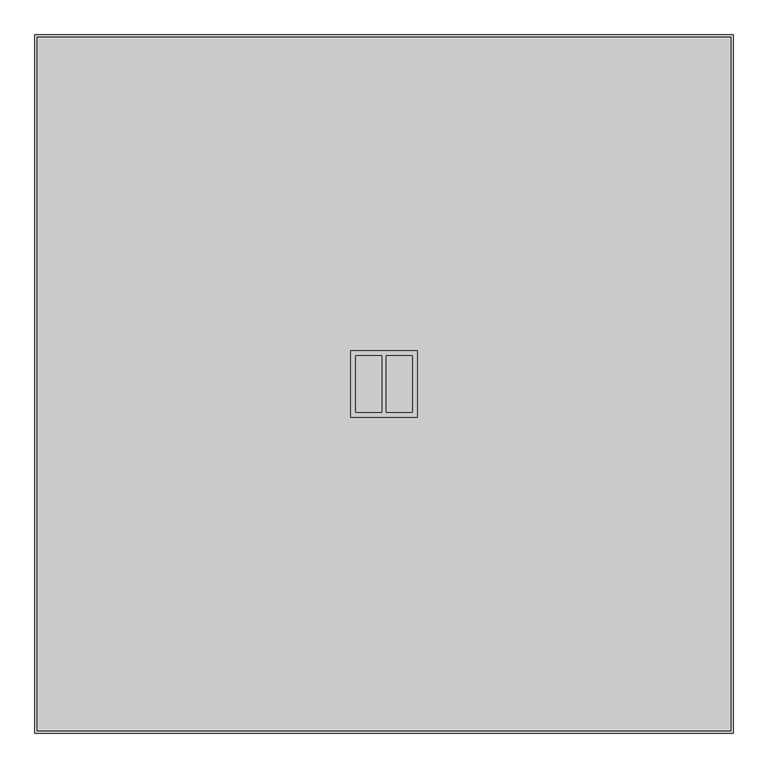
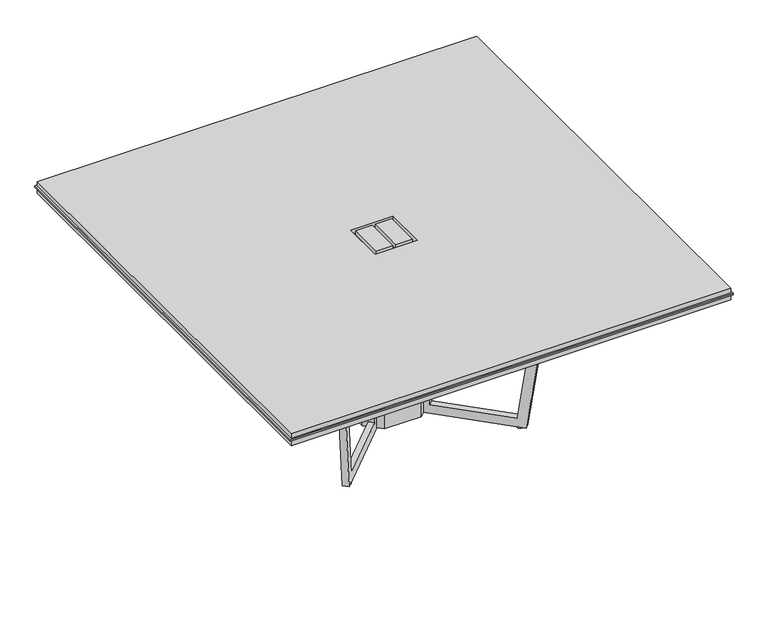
"""IFC4 building model written with IfcOpenShell, lengths in millimetres: furniture geometry, Knoll_Datesweiser_Tables_Meeting_Highline_Square : 72W Caesartone WireMgmt."""

from ifc_helpers import new_model, si_unit, point, frame, frame_2d, origin, origin_with_axes, place, context, project, spatial, polyline, circle_curve, trimmed, segment, composite_curve, outline, extrude, faceted_brep, source, transform, mapped, element, save


def furniture_2de5d6c9(model_context):
    return source(origin(), model_context, "Body", "SolidModel", [
        extrude(outline(polyline([(914.4, 914.4), (914.4, -914.4), (-914.4, -914.4), (-914.4, 914.4), (914.4, 914.4)])), frame((0.0, 0.0, 698.5), z_axis=(0.0, 0.0, 1.0), x_axis=(1.0, 0.0, 0.0)), (0.0, 0.0, 1.0), 25.4),
        extrude(outline(polyline([(914.4, 914.4), (914.4, -914.4), (-914.4, -914.4), (-914.4, 914.4), (914.4, 914.4)]), holes=[polyline([(-87.3125, -87.3125), (87.3125, -87.3125), (87.3125, 87.3125), (-87.3125, 87.3125), (-87.3125, -87.3125)])]), frame((0.0, 0.0, 730.25), z_axis=(0.0, 0.0, 1.0), x_axis=(1.0, 0.0, 0.0)), (0.0, 0.0, 1.0), 19.05),
        extrude(outline(polyline([(6.35, -74.6125), (6.35, 74.6125), (74.6125, 74.6125), (74.6125, -74.6125), (6.35, -74.6125)])), frame((0.0, 0.0, 730.25), z_axis=(0.0, 0.0, 1.0), x_axis=(1.0, 0.0, 0.0)), (0.0, 0.0, 1.0), 19.05),
        extrude(outline(polyline([(-6.35, 74.6125), (-6.35, -74.6125), (-74.6125, -74.6125), (-74.6125, 74.6125), (-6.35, 74.6125)])), frame((0.0, 0.0, 730.25), z_axis=(0.0, 0.0, 1.0), x_axis=(1.0, 0.0, 0.0)), (0.0, 0.0, 1.0), 19.05),
        extrude(outline(polyline([(920.75, 920.75), (920.75, -920.75), (-920.75, -920.75), (-920.75, 920.75), (920.75, 920.75)]), holes=[polyline([(-87.3125, -87.3125), (87.3125, -87.3125), (87.3125, 87.3125), (-87.3125, 87.3125), (-87.3125, -87.3125)])]), frame((0.0, 0.0, 723.9), z_axis=(0.0, 0.0, 1.0), x_axis=(1.0, 0.0, 0.0)), (0.0, 0.0, 1.0), 6.35),
        extrude(outline(polyline([(6.35, -74.6125), (6.35, 74.6125), (74.6125, 74.6125), (74.6125, -74.6125), (6.35, -74.6125)])), frame((0.0, 0.0, 723.9), z_axis=(0.0, 0.0, 1.0), x_axis=(1.0, 0.0, 0.0)), (0.0, 0.0, 1.0), 6.35),
        extrude(outline(polyline([(-6.35, 74.6125), (-6.35, -74.6125), (-74.6125, -74.6125), (-74.6125, 74.6125), (-6.35, 74.6125)])), frame((0.0, 0.0, 723.9), z_axis=(0.0, 0.0, 1.0), x_axis=(1.0, 0.0, 0.0)), (0.0, 0.0, 1.0), 6.35),
        extrude(outline(composite_curve([segment(trimmed(circle_curve(frame_2d((-357.9481367, -357.9481367)), 12.7), [point((-345.2481367, -357.9481367))], [point((-370.6481367, -357.9481367))], False, "CARTESIAN"), True, "CONTINUOUS"), segment(trimmed(circle_curve(frame_2d((-357.9481367, -357.9481367)), 12.7), [point((-370.6481367, -357.9481367))], [point((-345.2481367, -357.9481367))], False, "CARTESIAN"), True, "CONTINUOUS")], self_intersect=False)), origin_with_axes(), (0.0, 0.0, 1.0), 5.9867797),
        extrude(outline(composite_curve([segment(trimmed(circle_curve(frame_2d((-357.9481367, 357.9481367)), 12.7), [point((-345.2481367, 357.9481367))], [point((-370.6481367, 357.9481367))], False, "CARTESIAN"), True, "CONTINUOUS"), segment(trimmed(circle_curve(frame_2d((-357.9481367, 357.9481367)), 12.7), [point((-370.6481367, 357.9481367))], [point((-345.2481367, 357.9481367))], False, "CARTESIAN"), True, "CONTINUOUS")], self_intersect=False)), origin_with_axes(), (0.0, 0.0, 1.0), 5.9867797),
        extrude(outline(composite_curve([segment(trimmed(circle_curve(frame_2d((357.9481367, -357.9481367)), 12.7), [point((370.6481367, -357.9481367))], [point((345.2481367, -357.9481367))], False, "CARTESIAN"), True, "CONTINUOUS"), segment(trimmed(circle_curve(frame_2d((357.9481367, -357.9481367)), 12.7), [point((345.2481367, -357.9481367))], [point((370.6481367, -357.9481367))], False, "CARTESIAN"), True, "CONTINUOUS")], self_intersect=False)), origin_with_axes(), (0.0, 0.0, 1.0), 5.9867797),
        extrude(outline(composite_curve([segment(trimmed(circle_curve(frame_2d((357.9481367, 357.9481367)), 12.7), [point((370.6481367, 357.9481367))], [point((345.2481367, 357.9481367))], False, "CARTESIAN"), True, "CONTINUOUS"), segment(trimmed(circle_curve(frame_2d((357.9481367, 357.9481367)), 12.7), [point((345.2481367, 357.9481367))], [point((370.6481367, 357.9481367))], False, "CARTESIAN"), True, "CONTINUOUS")], self_intersect=False)), origin_with_axes(), (0.0, 0.0, 1.0), 5.9867797),
        faceted_brep([(-105.5180417, 87.5575295, 698.5000242), (-132.4542329, 114.4937206, 698.5000242), (-132.4542329, 114.4937206, 44.0867803), (-362.731756, 344.7712438, 44.0867803), (-427.7656237, 409.8051114, 698.5000242), (-454.9711667, 437.0106545, 698.5000242), (-386.1246404, 368.1641282, 5.7213276), (-115.3405838, 97.3800716, 6.2173274), (-115.3405838, 97.3800716, 679.2551774), (-105.5179146, 87.5574023, 679.2551774), (368.1641282, -386.1246404, 5.7213276), (437.0106545, -454.9711667, 698.5000242), (409.8051114, -427.7656237, 698.5000242), (344.7712438, -362.731756, 44.0867803), (114.4937206, -132.4542329, 44.0867803), (114.4937206, -132.4542329, 698.5000242), (87.5575295, -105.5180417, 698.5000242), (87.5574023, -105.5179146, 679.2551774), (97.3800716, -115.3405838, 679.2551774), (97.3800716, -115.3405838, 6.2173274), (-368.1641282, 386.1246404, 5.7213276), (-437.0106545, 454.9711667, 698.5000242), (-409.8051114, 427.7656237, 698.5000242), (-344.7712438, 362.731756, 44.0867803), (-114.4937206, 132.4542329, 44.0867803), (-114.4937206, 132.4542329, 698.5000242), (-87.5575295, 105.5180417, 698.5000242), (-87.5574023, 105.5179146, 679.2551774), (-97.3800759, 115.3405882, 679.2551774), (-97.3800759, 115.3405882, 6.2173274), (105.5180417, -87.5575295, 698.5000242), (132.4542329, -114.4937206, 698.5000242), (132.4542329, -114.4937206, 44.0867803), (362.731756, -344.7712438, 44.0867803), (427.7656237, -409.8051114, 698.5000242), (454.9711667, -437.0106545, 698.5000242), (386.1246404, -368.1641282, 5.7213276), (115.3405882, -97.3800759, 6.2173274), (115.3405882, -97.3800759, 679.2551774), (105.5179146, -87.5574023, 679.2551774), (-134.8689207, 77.8517251, 679.2551774), (-134.8689207, -77.8517528, 679.2551774), (-77.8517251, -134.8689207, 679.2551774), (77.8517251, -134.8689207, 679.2551774), (134.8689207, -77.8517528, 679.2551774), (134.8689207, 77.8517251, 679.2551774), (77.8517528, 134.8689207, 679.2551774), (-77.8517528, 134.8689207, 679.2551774), (-134.8689207, 77.8517251, 5.8810183), (-77.8517528, 134.8689207, 5.8810183), (77.8517528, 134.8689207, 5.8810183), (134.8689207, 77.8517251, 5.8810183), (134.8689207, -77.8517528, 5.8810183), (77.8517251, -134.8689207, 5.8810183), (-77.8517251, -134.8689207, 5.8810183), (-134.8689207, -77.8517528, 5.8810183)], [[[0, 1, 2, 3, 4, 5, 6, 7, 8, 9]], [[10, 11, 12, 13, 14, 15, 16, 17, 18, 19]], [[20, 21, 22, 23, 24, 25, 26, 27, 28, 29]], [[30, 31, 32, 33, 34, 35, 36, 37, 38, 39]], [[3, 2, 24, 23]], [[4, 3, 23, 22]], [[5, 4, 22, 21]], [[6, 5, 21, 20]], [[6, 20, 29, 7]], [[26, 0, 9, 27]], [[1, 0, 26, 25]], [[2, 1, 25, 24]], [[36, 10, 19, 37]], [[11, 10, 36, 35]], [[12, 11, 35, 34]], [[13, 12, 34, 33]], [[14, 13, 33, 32]], [[15, 14, 32, 31]], [[16, 15, 31, 30]], [[16, 30, 39, 17]], [[40, 41, 42, 43, 18, 17, 39, 38, 44, 45, 46, 47, 28, 27, 9, 8]], [[48, 49, 50, 51, 52, 53, 54, 55]], [[41, 40, 48, 55]], [[42, 41, 55, 54]], [[43, 42, 54, 53]], [[53, 52, 44, 38, 37, 19, 18, 43]], [[45, 44, 52, 51]], [[46, 45, 51, 50]], [[47, 46, 50, 49]], [[49, 48, 40, 8, 7, 29, 28, 47]]]),
        extrude(outline(polyline([(687.3294598, 0.0), (687.8397529, -396.8441293), (-4.9398532, -494.2013488), (-4.9394938, -455.7269008), (649.4746093, -363.7612365), (649.4776515, -38.0996402), (-4.9355924, -38.0935268), (-4.9352365, 0.0), (687.3294598, 0.0)])), frame((105.5180091, 87.5574969, 693.5647877), z_axis=(-0.7071067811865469, 0.7071067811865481, 0.0), x_axis=(-6.605612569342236e-06, -6.605612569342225e-06, -0.9999999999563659)), (0.0, 0.0, 1.0), 25.4),
        extrude(outline(polyline([(687.3320105, 273.0371574), (-4.9326857, 273.0500913), (-4.9323299, 311.1436182), (649.480914, 311.1375048), (649.4839562, 636.7991012), (-4.9284285, 728.7769922), (-4.928069, 767.2514401), (687.849718, 669.8812771), (687.3320105, 273.0371574)])), frame((105.5180091, 87.5574969, 693.5647877), z_axis=(-0.7071067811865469, 0.7071067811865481, 0.0), x_axis=(-6.605612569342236e-06, -6.605612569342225e-06, -0.9999999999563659)), (0.0, 0.0, 1.0), 25.4),
    ])


if __name__ == "__main__":
    model = new_model("IFC4")
    model_context = context("Model", 3, world=origin())
    ifc_project = project(units=[si_unit("LENGTHUNIT", "METRE", prefix="MILLI")], contexts=[model_context])
    site = spatial("IfcSite", under=ifc_project)
    building = spatial("IfcBuilding", under=site)
    placement = place(None, origin())
    furniture_shape = furniture_2de5d6c9(model_context)
    element("IfcFurniture", 1, ObjectType="Knoll_Datesweiser_Tables_Meeting_Highline_Square : 72W Caesartone WireMgmt", at=placement, inside=building, context=model_context, shape_type="MappedRepresentation", body=[
        mapped(furniture_shape, transform((0.0, 0.0, 0.0), x_axis=(1.0, 0.0, 0.0), y_axis=(0.0, 1.0, 0.0), z_axis=(0.0, 0.0, 1.0))),
    ])
    save(model, "model.ifc")
